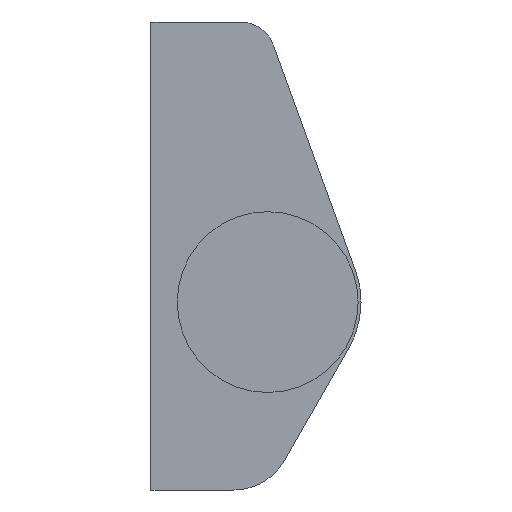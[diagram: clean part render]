
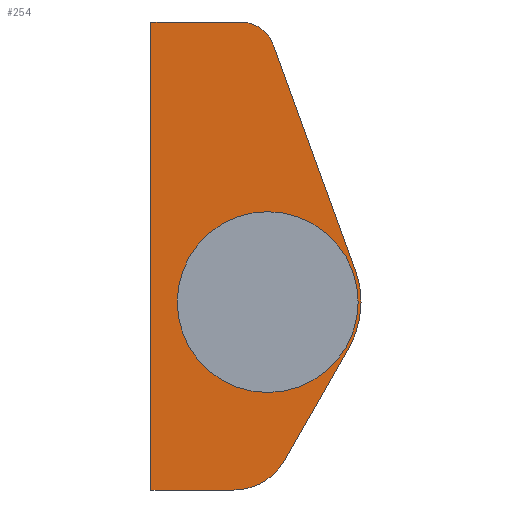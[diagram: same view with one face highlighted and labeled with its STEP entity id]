
A CAD part, front view. The second image highlights one B-rep face of the part: STEP entity #254.
In plain terms, the highlighted planar face has unit normal (0, -1, 0).
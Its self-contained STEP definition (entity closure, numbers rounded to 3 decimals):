
#16 = VERTEX_POINT ( 'NONE', #47 ) ;
#23 = VERTEX_POINT ( 'NONE', #52 ) ;
#24 = VERTEX_POINT ( 'NONE', #53 ) ;
#25 = VERTEX_POINT ( 'NONE', #54 ) ;
#26 = VERTEX_POINT ( 'NONE', #55 ) ;
#27 = VERTEX_POINT ( 'NONE', #56 ) ;
#28 = VERTEX_POINT ( 'NONE', #57 ) ;
#29 = VERTEX_POINT ( 'NONE', #58 ) ;
#30 = VERTEX_POINT ( 'NONE', #59 ) ;
#31 = VERTEX_POINT ( 'NONE', #60 ) ;
#32 = VERTEX_POINT ( 'NONE', #61 ) ;
#47 = CARTESIAN_POINT ( 'NONE',  ( 6.942, 614., -3.975 ) ) ;
#52 = CARTESIAN_POINT ( 'NONE',  ( 8., 614., 0. ) ) ;
#53 = CARTESIAN_POINT ( 'NONE',  ( -6., 614., 0. ) ) ;
#54 = CARTESIAN_POINT ( 'NONE',  ( 6., 614., 0. ) ) ;
#55 = CARTESIAN_POINT ( 'NONE',  ( -2.899, 614., -16.1 ) ) ;
#56 = CARTESIAN_POINT ( 'NONE',  ( -10., 614., -16.1 ) ) ;
#57 = CARTESIAN_POINT ( 'NONE',  ( 1.44, 614., -13.584 ) ) ;
#58 = CARTESIAN_POINT ( 'NONE',  ( 7.518, 614., 2.736 ) ) ;
#59 = CARTESIAN_POINT ( 'NONE',  ( 0.497, 614., 22.026 ) ) ;
#60 = CARTESIAN_POINT ( 'NONE',  ( -2.322, 614., 24. ) ) ;
#61 = CARTESIAN_POINT ( 'NONE',  ( -10., 614., 24. ) ) ;
#122 = CARTESIAN_POINT ( 'NONE',  ( -2.322, 614., 21. ) ) ;
#123 = PLANE ( 'NONE',  #292 ) ;
#124 = DIRECTION ( 'NONE',  ( 0., 1., 0. ) ) ;
#125 = DIRECTION ( 'NONE',  ( -1., 0., 0. ) ) ;
#134 = CARTESIAN_POINT ( 'NONE',  ( 0., 614., 0. ) ) ;
#135 = DIRECTION ( 'NONE',  ( 0., -1., 0. ) ) ;
#136 = DIRECTION ( 'NONE',  ( -1., 0., 0. ) ) ;
#137 = CARTESIAN_POINT ( 'NONE',  ( -2.899, 614., -16.1 ) ) ;
#139 = CARTESIAN_POINT ( 'NONE',  ( 6.942, 614., -3.975 ) ) ;
#141 = DIRECTION ( 'NONE',  ( 1., 0., 0. ) ) ;
#143 = DIRECTION ( 'NONE',  ( 0.497, 0., 0.868 ) ) ;
#151 = CARTESIAN_POINT ( 'NONE',  ( -2.322, 614., 21. ) ) ;
#153 = DIRECTION ( 'NONE',  ( 0., -1., 0. ) ) ;
#154 = DIRECTION ( 'NONE',  ( -1., 0., 0. ) ) ;
#161 = CARTESIAN_POINT ( 'NONE',  ( 0., 614., 0. ) ) ;
#163 = DIRECTION ( 'NONE',  ( 0., -1., 0. ) ) ;
#164 = DIRECTION ( 'NONE',  ( -1., 0., 0. ) ) ;
#165 = CARTESIAN_POINT ( 'NONE',  ( -10., 614., 24. ) ) ;
#166 = DIRECTION ( 'NONE',  ( -1., 0., 0. ) ) ;
#174 = CARTESIAN_POINT ( 'NONE',  ( -10., 614., -16.1 ) ) ;
#175 = DIRECTION ( 'NONE',  ( 0., 0., -1. ) ) ;
#185 = CARTESIAN_POINT ( 'NONE',  ( -2.899, 614., -11.1 ) ) ;
#186 = DIRECTION ( 'NONE',  ( 0., -1., 0. ) ) ;
#187 = DIRECTION ( 'NONE',  ( -1., 0., 0. ) ) ;
#188 = CARTESIAN_POINT ( 'NONE',  ( 0.497, 614., 22.026 ) ) ;
#189 = DIRECTION ( 'NONE',  ( -0.342, 0., 0.94 ) ) ;
#197 = CARTESIAN_POINT ( 'NONE',  ( 0., 614., 0. ) ) ;
#200 = DIRECTION ( 'NONE',  ( 0., -1., 0. ) ) ;
#201 = DIRECTION ( 'NONE',  ( -1., 0., 0. ) ) ;
#207 = CARTESIAN_POINT ( 'NONE',  ( 0., 614., 0. ) ) ;
#209 = DIRECTION ( 'NONE',  ( 0., -1., 0. ) ) ;
#210 = DIRECTION ( 'NONE',  ( -1., 0., 0. ) ) ;
#254 = ADVANCED_FACE ( 'NONE', ( #462, #467 ), #123, .F. ) ;
#262 = AXIS2_PLACEMENT_3D ( 'NONE', #161, #163, #164 ) ;
#266 = EDGE_CURVE ( 'NONE', #24, #25, #477, .T. ) ;
#268 = EDGE_CURVE ( 'NONE', #27, #26, #475, .T. ) ;
#269 = EDGE_CURVE ( 'NONE', #28, #16, #474, .T. ) ;
#275 = EDGE_CURVE ( 'NONE', #30, #31, #487, .T. ) ;
#281 = EDGE_CURVE ( 'NONE', #16, #23, #495, .T. ) ;
#286 = EDGE_CURVE ( 'NONE', #31, #32, #491, .T. ) ;
#292 = AXIS2_PLACEMENT_3D ( 'NONE', #122, #124, #125 ) ;
#299 = EDGE_CURVE ( 'NONE', #32, #27, #501, .T. ) ;
#304 = AXIS2_PLACEMENT_3D ( 'NONE', #185, #186, #187 ) ;
#306 = AXIS2_PLACEMENT_3D ( 'NONE', #151, #153, #154 ) ;
#309 = AXIS2_PLACEMENT_3D ( 'NONE', #134, #135, #136 ) ;
#310 = EDGE_CURVE ( 'NONE', #26, #28, #511, .T. ) ;
#311 = EDGE_CURVE ( 'NONE', #29, #30, #508, .T. ) ;
#317 = AXIS2_PLACEMENT_3D ( 'NONE', #207, #209, #210 ) ;
#322 = AXIS2_PLACEMENT_3D ( 'NONE', #197, #200, #201 ) ;
#325 = EDGE_CURVE ( 'NONE', #25, #24, #520, .T. ) ;
#330 = EDGE_CURVE ( 'NONE', #23, #29, #523, .T. ) ;
#348 = EDGE_LOOP ( 'NONE', ( #408, #409 ) ) ;
#399 = ORIENTED_EDGE ( 'NONE', *, *, #268, .T. ) ;
#400 = ORIENTED_EDGE ( 'NONE', *, *, #310, .T. ) ;
#401 = ORIENTED_EDGE ( 'NONE', *, *, #269, .T. ) ;
#402 = ORIENTED_EDGE ( 'NONE', *, *, #281, .T. ) ;
#403 = ORIENTED_EDGE ( 'NONE', *, *, #330, .T. ) ;
#404 = ORIENTED_EDGE ( 'NONE', *, *, #311, .T. ) ;
#405 = ORIENTED_EDGE ( 'NONE', *, *, #275, .T. ) ;
#406 = ORIENTED_EDGE ( 'NONE', *, *, #286, .T. ) ;
#407 = ORIENTED_EDGE ( 'NONE', *, *, #299, .T. ) ;
#408 = ORIENTED_EDGE ( 'NONE', *, *, #266, .F. ) ;
#409 = ORIENTED_EDGE ( 'NONE', *, *, #325, .F. ) ;
#419 = EDGE_LOOP ( 'NONE', ( #399, #400, #401, #402, #403, #404, #405, #406, #407 ) ) ;
#462 = FACE_OUTER_BOUND ( 'NONE', #419, .T. ) ;
#467 = FACE_BOUND ( 'NONE', #348, .T. ) ;
#474 = LINE ( 'NONE', #139, #479 ) ;
#475 = LINE ( 'NONE', #137, #478 ) ;
#477 = CIRCLE ( 'NONE', #309, 6. ) ;
#478 = VECTOR ( 'NONE', #141, 1000. ) ;
#479 = VECTOR ( 'NONE', #143, 1000. ) ;
#486 = VECTOR ( 'NONE', #166, 1000. ) ;
#487 = CIRCLE ( 'NONE', #306, 3. ) ;
#491 = LINE ( 'NONE', #165, #486 ) ;
#495 = CIRCLE ( 'NONE', #262, 8. ) ;
#501 = LINE ( 'NONE', #174, #502 ) ;
#502 = VECTOR ( 'NONE', #175, 1000. ) ;
#503 = VECTOR ( 'NONE', #189, 1000. ) ;
#508 = LINE ( 'NONE', #188, #503 ) ;
#511 = CIRCLE ( 'NONE', #304, 5. ) ;
#520 = CIRCLE ( 'NONE', #322, 6. ) ;
#523 = CIRCLE ( 'NONE', #317, 8. ) ;
